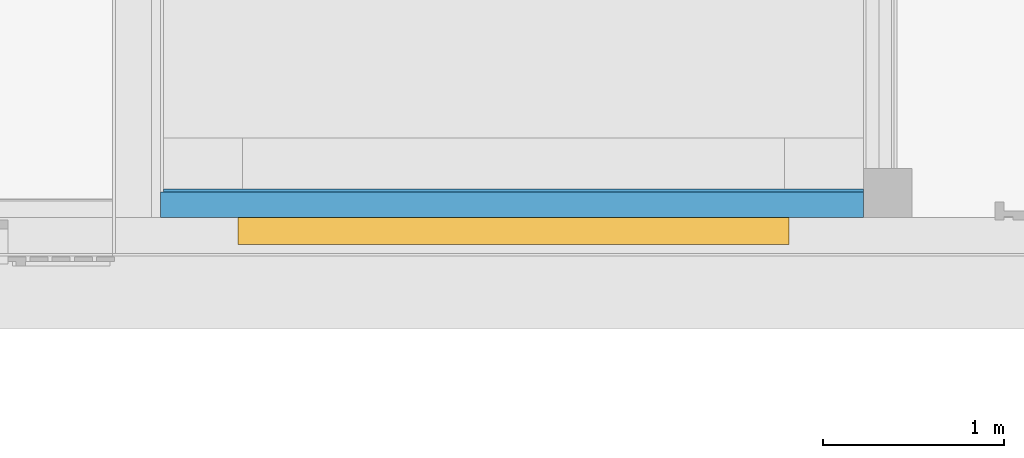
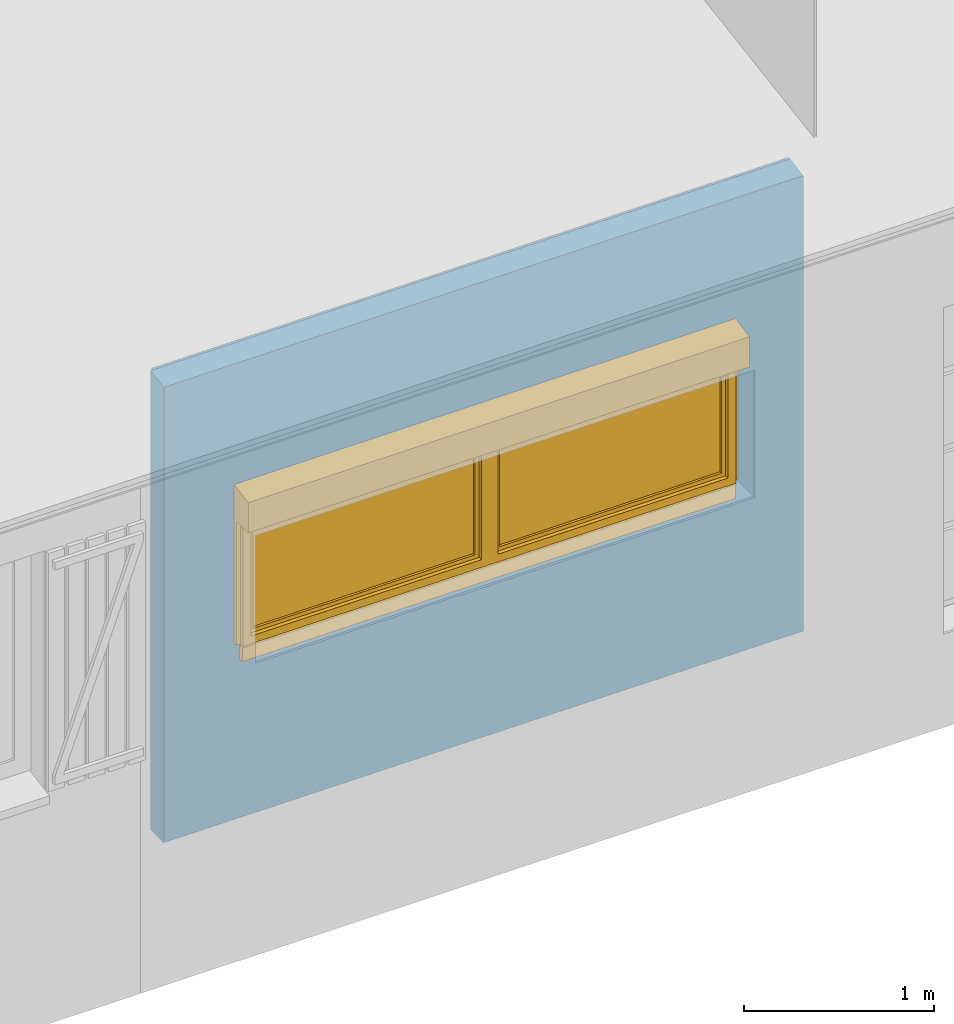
# One storey, part 9 of 24: 2 building element parts, 1 window, 1 opening, 1 element without a shape of its own.
"""IFC2X3 building model written with IfcOpenShell, lengths in metres."""

from ifc_helpers import new_model, entity, si_unit, converted_unit, derived_unit, money_unit, direction, frame, origin_with_axes, origin_2d_with_axis, place, context, subcontext, project, spatial, polyline, rectangle, outline, extrude, boolean, open_shell, faceted_brep, surface_model, material, type_object, element, fill, aggregate, save


model = new_model("IFC2X3")

# Units and contexts
model_context = context("Model", 3, precision=1e-05, world=origin_with_axes(), true_north=direction((0.0, 1.0)))
body_context = subcontext(model_context, "Body", "Model", "MODEL_VIEW")
ifc_project = project(units=[si_unit("LENGTHUNIT", "METRE"), si_unit("AREAUNIT", "SQUARE_METRE"), si_unit("VOLUMEUNIT", "CUBIC_METRE"), converted_unit("PLANEANGLEUNIT", "DEGREE", entity("IfcPlaneAngleMeasure", 0.0174532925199), si_unit("PLANEANGLEUNIT", "RADIAN"), dimensions=[0, 0, 0, 0, 0, 0, 0]), si_unit("SOLIDANGLEUNIT", "STERADIAN"), money_unit("CHF"), converted_unit("TIMEUNIT", "Year", entity("IfcTimeMeasure", 31556926.0), si_unit("TIMEUNIT", "SECOND"), dimensions=[0, 0, 1, 0, 0, 0, 0]), si_unit("MASSUNIT", "GRAM", prefix="KILO"), si_unit("THERMODYNAMICTEMPERATUREUNIT", "DEGREE_CELSIUS"), si_unit("LUMINOUSINTENSITYUNIT", "LUMEN"), si_unit("ENERGYUNIT", "JOULE", prefix="MEGA"), derived_unit("THERMALCONDUCTANCEUNIT", [(si_unit("POWERUNIT", "WATT"), 1), (si_unit("LENGTHUNIT", "METRE"), -1), (si_unit("THERMODYNAMICTEMPERATUREUNIT", "KELVIN"), -1)]), derived_unit("SPECIFICHEATCAPACITYUNIT", [(si_unit("ENERGYUNIT", "JOULE"), 1), (si_unit("MASSUNIT", "GRAM", prefix="KILO"), -1), (si_unit("THERMODYNAMICTEMPERATUREUNIT", "KELVIN"), -1)]), derived_unit("MASSDENSITYUNIT", [(si_unit("MASSUNIT", "GRAM", prefix="KILO"), 1), (si_unit("VOLUMEUNIT", "CUBIC_METRE"), -1)])], contexts=[model_context])

# Site, building, storey
site_placement = place(None, origin_with_axes())
site = spatial("IfcSite", under=ifc_project, at=site_placement, Name="Site", CompositionType="ELEMENT")
building_placement = place(site_placement, origin_with_axes())
building = spatial("IfcBuilding", under=site, at=building_placement, Name="Bâtiment", CompositionType="ELEMENT")
storey_placement = place(building_placement, origin_with_axes())
storey = spatial("IfcBuildingStorey", under=building, at=storey_placement, Name="Rez-de-chaussée", CompositionType="ELEMENT", Elevation=0.0)

# Window
window_style = type_object("IfcWindowStyle", Name="Fenêtre double 24", ConstructionType="NOTDEFINED", OperationType="DOUBLE_PANEL_VERTICAL", ParameterTakesPrecedence=False, Sizeable=False)
wall_placement = place(storey_placement, frame((23.6021417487, 7.9529346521, -0.13), z_axis=(0.0, 0.0, 1.0), x_axis=(1.0, 0.0, 0.0)))
opening_placement = place(wall_placement, frame((2.0025, 0.0, 1.41), z_axis=(0.0, 0.0, 1.0), x_axis=(1.0, 0.0, 0.0)))
window_placement = place(opening_placement, frame((-1.5, 0.0, 0.0), z_axis=(0.0, 0.0, 1.0), x_axis=(1.0, 0.0, 0.0)))
window = element("IfcWindow", 1, at=window_placement, inside=storey, type_object=window_style, Name="FENETRE-002", ObjectType="WINDOW", OverallHeight=0.82, OverallWidth=3.0, context=body_context, shape_type="SurfaceModel", body=[
    faceted_brep([(0.0, -0.015, 0.0), (0.0, -0.025, 0.0), (3.0, -0.025, 0.0), (3.0, -0.015, 0.0), (0.0, -0.015, -0.1), (0.0, -0.045, -0.1), (0.0, -0.045, -0.0135265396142), (0.0, -0.025, -0.01), (3.0, -0.025, -0.01), (3.0, -0.045, -0.0135265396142), (3.0, -0.045, -0.1), (3.0, -0.015, -0.1)], [[[0, 1, 2, 3]], [[0, 4, 5, 6, 7, 1]], [[1, 7, 8, 2]], [[3, 2, 8, 9, 10, 11]], [[4, 0, 3, 11]], [[5, 4, 11, 10]], [[6, 5, 10, 9]], [[7, 6, 9, 8]]]),
    faceted_brep([(-0.025, 0.0, 0.8), (-0.022, 0.0, 0.8), (-0.022, -0.15, 0.8), (-0.025, -0.15, 0.8), (-0.025, 0.0, 1.02), (-0.022, 0.0, 1.02), (-0.022, -0.15, 0.993550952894), (-0.025, -0.15, 0.993550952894)], [[[0, 1, 2, 3]], [[4, 5, 1, 0]], [[1, 5, 6, 2]], [[3, 2, 6, 7]], [[0, 3, 7, 4]], [[7, 6, 5, 4]]]),
    faceted_brep([(3.022, 0.0, 0.8), (3.025, 0.0, 0.8), (3.025, -0.15, 0.8), (3.022, -0.15, 0.8), (3.022, 0.0, 1.02), (3.025, 0.0, 1.02), (3.025, -0.15, 0.993550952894), (3.022, -0.15, 0.993550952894)], [[[0, 1, 2, 3]], [[4, 5, 1, 0]], [[1, 5, 6, 2]], [[3, 2, 6, 7]], [[0, 3, 7, 4]], [[7, 6, 5, 4]]]),
    faceted_brep([(-0.022, 0.0, 0.8), (3.022, 0.0, 0.8), (3.022, -0.003, 0.8), (-0.022, -0.003, 0.8), (-0.022, 0.0, 1.02), (3.022, 0.0, 1.02), (3.022, -0.15, 0.993550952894), (3.022, -0.15, 0.8), (3.022, -0.147, 0.8), (3.022, -0.147, 0.82), (3.022, -0.025, 0.82), (3.022, -0.025, 0.8), (3.022, -0.022, 0.8), (3.022, -0.022, 0.823), (3.022, -0.147, 0.823), (3.022, -0.147, 0.991033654), (3.022, -0.003, 1.01642473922), (3.022, -0.003, 0.82), (-0.022, -0.003, 0.82), (-0.022, -0.003, 1.01642473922), (-0.022, -0.147, 0.991033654), (-0.022, -0.147, 0.823), (-0.022, -0.022, 0.823), (-0.022, -0.022, 0.8), (-0.022, -0.025, 0.8), (-0.022, -0.025, 0.82), (-0.022, -0.147, 0.82), (-0.022, -0.147, 0.8), (-0.022, -0.15, 0.8), (-0.022, -0.15, 0.993550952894)], [[[0, 1, 2, 3]], [[4, 5, 1, 0]], [[1, 5, 6, 7, 8, 9, 10, 11, 12, 13, 14, 15, 16, 17, 2]], [[3, 2, 17, 18]], [[0, 3, 18, 19, 20, 21, 22, 23, 24, 25, 26, 27, 28, 29, 4]], [[29, 6, 5, 4]], [[28, 7, 6, 29]], [[27, 8, 7, 28]], [[26, 9, 8, 27]], [[25, 10, 9, 26]], [[24, 11, 10, 25]], [[23, 12, 11, 24]], [[22, 13, 12, 23]], [[21, 14, 13, 22]], [[20, 15, 14, 21]], [[19, 16, 15, 20]], [[18, 17, 16, 19]]]),
    faceted_brep([(-0.022, -0.13138024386, 0.896834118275), (-0.022, -0.13225, 0.906775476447), (-0.022, -0.13138024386, 0.916716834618), (-0.022, -0.12879740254, 0.926356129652), (-0.022, -0.124579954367, 0.935400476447), (-0.022, -0.118856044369, 0.943575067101), (-0.022, -0.111799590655, 0.950631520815), (-0.022, -0.103625, 0.956355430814), (-0.022, -0.0945806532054, 0.960572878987), (-0.022, -0.0849413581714, 0.963155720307), (-0.022, -0.075, 0.964025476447), (-0.022, -0.0650586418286, 0.963155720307), (-0.022, -0.0554193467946, 0.960572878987), (-0.022, -0.046375, 0.956355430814), (-0.022, -0.0382004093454, 0.950631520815), (-0.022, -0.0311439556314, 0.943575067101), (-0.022, -0.0254200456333, 0.935400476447), (-0.022, -0.02120259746, 0.926356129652), (-0.022, -0.0186197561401, 0.916716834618), (-0.022, -0.01775, 0.906775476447), (-0.022, -0.0186197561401, 0.896834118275), (-0.022, -0.02120259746, 0.887194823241), (-0.022, -0.0254200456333, 0.878150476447), (-0.022, -0.0311439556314, 0.869975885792), (-0.022, -0.0382004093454, 0.862919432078), (-0.022, -0.046375, 0.85719552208), (-0.022, -0.0554193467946, 0.852978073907), (-0.022, -0.0650586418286, 0.850395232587), (-0.022, -0.075, 0.849525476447), (-0.022, -0.0849413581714, 0.850395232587), (-0.022, -0.0945806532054, 0.852978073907), (-0.022, -0.103625, 0.85719552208), (-0.022, -0.111799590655, 0.862919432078), (-0.022, -0.118856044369, 0.869975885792), (-0.022, -0.124579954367, 0.878150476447), (-0.022, -0.12879740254, 0.887194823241), (3.022, -0.13138024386, 0.896834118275), (3.022, -0.13225, 0.906775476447), (3.022, -0.13138024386, 0.916716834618), (3.022, -0.12879740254, 0.926356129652), (3.022, -0.124579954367, 0.935400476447), (3.022, -0.118856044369, 0.943575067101), (3.022, -0.111799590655, 0.950631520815), (3.022, -0.103625, 0.956355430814), (3.022, -0.0945806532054, 0.960572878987), (3.022, -0.0849413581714, 0.963155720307), (3.022, -0.075, 0.964025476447), (3.022, -0.0650586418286, 0.963155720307), (3.022, -0.0554193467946, 0.960572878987), (3.022, -0.046375, 0.956355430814), (3.022, -0.0382004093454, 0.950631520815), (3.022, -0.0311439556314, 0.943575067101), (3.022, -0.0254200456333, 0.935400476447), (3.022, -0.02120259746, 0.926356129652), (3.022, -0.01861975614, 0.916716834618), (3.022, -0.01775, 0.906775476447), (3.022, -0.01861975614, 0.896834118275), (3.022, -0.02120259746, 0.887194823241), (3.022, -0.0254200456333, 0.878150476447), (3.022, -0.0311439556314, 0.869975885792), (3.022, -0.0382004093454, 0.862919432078), (3.022, -0.046375, 0.85719552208), (3.022, -0.0554193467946, 0.852978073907), (3.022, -0.0650586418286, 0.850395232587), (3.022, -0.075, 0.849525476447), (3.022, -0.0849413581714, 0.850395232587), (3.022, -0.0945806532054, 0.852978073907), (3.022, -0.103625, 0.85719552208), (3.022, -0.111799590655, 0.862919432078), (3.022, -0.118856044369, 0.869975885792), (3.022, -0.124579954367, 0.878150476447), (3.022, -0.12879740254, 0.887194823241)], [[[0, 1, 2, 3, 4, 5, 6, 7, 8, 9, 10, 11, 12, 13, 14, 15, 16, 17, 18, 19, 20, 21, 22, 23, 24, 25, 26, 27, 28, 29, 30, 31, 32, 33, 34, 35]], [[0, 36, 37, 1]], [[1, 37, 38, 2]], [[2, 38, 39, 3]], [[3, 39, 40, 4]], [[4, 40, 41, 5]], [[5, 41, 42, 6]], [[6, 42, 43, 7]], [[7, 43, 44, 8]], [[8, 44, 45, 9]], [[9, 45, 46, 10]], [[10, 46, 47, 11]], [[11, 47, 48, 12]], [[12, 48, 49, 13]], [[13, 49, 50, 14]], [[14, 50, 51, 15]], [[15, 51, 52, 16]], [[16, 52, 53, 17]], [[17, 53, 54, 18]], [[18, 54, 55, 19]], [[19, 55, 56, 20]], [[20, 56, 57, 21]], [[21, 57, 58, 22]], [[22, 58, 59, 23]], [[23, 59, 60, 24]], [[24, 60, 61, 25]], [[25, 61, 62, 26]], [[26, 62, 63, 27]], [[27, 63, 64, 28]], [[28, 64, 65, 29]], [[29, 65, 66, 30]], [[30, 66, 67, 31]], [[31, 67, 68, 32]], [[32, 68, 69, 33]], [[33, 69, 70, 34]], [[34, 70, 71, 35]], [[35, 71, 36, 0]], [[36, 71, 70, 69, 68, 67, 66, 65, 64, 63, 62, 61, 60, 59, 58, 57, 56, 55, 54, 53, 52, 51, 50, 49, 48, 47, 46, 45, 44, 43, 42, 41, 40, 39, 38, 37]]]),
    faceted_brep([(3.025, 0.0, 0.00264490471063), (3.025, 0.0, 0.8), (3.025, -0.025, 0.8), (3.025, -0.025, 0.00264490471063), (3.0, 0.0, 0.00264490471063), (3.0, 0.0, 0.8), (3.0, -0.003, 0.8), (3.022, -0.003, 0.8), (3.022, -0.022, 0.8), (3.0, -0.022, 0.8), (3.0, -0.025, 0.8), (3.0, -0.025, 0.00264490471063), (3.0, -0.022, 0.00264490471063), (3.022, -0.022, 0.00264490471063), (3.022, -0.003, 0.00264490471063), (3.0, -0.003, 0.00264490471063)], [[[0, 1, 2, 3]], [[4, 5, 1, 0]], [[1, 5, 6, 7, 8, 9, 10, 2]], [[3, 2, 10, 11]], [[0, 3, 11, 12, 13, 14, 15, 4]], [[15, 6, 5, 4]], [[14, 7, 6, 15]], [[13, 8, 7, 14]], [[12, 9, 8, 13]], [[11, 10, 9, 12]]]),
    faceted_brep([(-0.025, 0.0, 0.00264490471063), (-0.025, -0.025, 0.00264490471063), (-0.025, -0.025, 0.8), (-0.025, 0.0, 0.8), (0.0, 0.0, 0.00264490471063), (0.0, -0.003, 0.00264490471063), (-0.022, -0.003, 0.00264490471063), (-0.022, -0.022, 0.00264490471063), (0.0, -0.022, 0.00264490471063), (0.0, -0.025, 0.00264490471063), (0.0, -0.025, 0.8), (0.0, -0.022, 0.8), (-0.022, -0.022, 0.8), (-0.022, -0.003, 0.8), (0.0, -0.003, 0.8), (0.0, 0.0, 0.8)], [[[0, 1, 2, 3]], [[0, 4, 5, 6, 7, 8, 9, 1]], [[1, 9, 10, 2]], [[3, 2, 10, 11, 12, 13, 14, 15]], [[4, 0, 3, 15]], [[5, 4, 15, 14]], [[6, 5, 14, 13]], [[7, 6, 13, 12]], [[8, 7, 12, 11]], [[9, 8, 11, 10]]]),
    faceted_brep([(3.022, -0.0113224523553, 0.906775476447), (3.022, -0.0116666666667, 0.903333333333), (-0.022, -0.0116666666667, 0.903333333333), (-0.022, -0.0113224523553, 0.906775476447), (3.022, -0.0163224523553, 0.906775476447), (3.022, -0.0166666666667, 0.903333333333), (3.022, -0.0166666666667, 0.886666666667), (3.022, -0.015, 0.87), (3.022, -0.01, 0.87), (3.022, -0.0116666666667, 0.886666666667), (-0.022, -0.0116666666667, 0.886666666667), (-0.022, -0.01, 0.87), (-0.022, -0.015, 0.87), (-0.022, -0.0166666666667, 0.886666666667), (-0.022, -0.0166666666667, 0.903333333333), (-0.022, -0.0163224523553, 0.906775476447)], [[[0, 1, 2, 3]], [[4, 5, 6, 7, 8, 9, 1, 0]], [[2, 1, 9, 10]], [[3, 2, 10, 11, 12, 13, 14, 15]], [[3, 15, 4, 0]], [[14, 5, 4, 15]], [[13, 6, 5, 14]], [[12, 7, 6, 13]], [[11, 8, 7, 12]], [[10, 9, 8, 11]]]),
    faceted_brep([(-0.022, -0.01, 0.87), (3.022, -0.01, 0.87), (3.022, -0.0116666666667, 0.853333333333), (-0.022, -0.0116666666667, 0.853333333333), (-0.022, -0.015, 0.87), (3.022, -0.015, 0.87), (3.022, -0.0166666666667, 0.853333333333), (3.022, -0.0166666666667, 0.836666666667), (3.022, -0.015, 0.82), (3.022, -0.01, 0.82), (3.022, -0.0116666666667, 0.836666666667), (-0.022, -0.0116666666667, 0.836666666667), (-0.022, -0.01, 0.82), (-0.022, -0.015, 0.82), (-0.022, -0.0166666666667, 0.836666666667), (-0.022, -0.0166666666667, 0.853333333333)], [[[0, 1, 2, 3]], [[4, 5, 1, 0]], [[1, 5, 6, 7, 8, 9, 10, 2]], [[3, 2, 10, 11]], [[0, 3, 11, 12, 13, 14, 15, 4]], [[15, 6, 5, 4]], [[14, 7, 6, 15]], [[13, 8, 7, 14]], [[12, 9, 8, 13]], [[11, 10, 9, 12]]]),
    faceted_brep([(0.025, 0.0, 0.77), (0.0, 0.0, 0.77), (0.0, -0.05, 0.77), (0.05, -0.05, 0.77), (0.05, -0.025, 0.77), (0.025, -0.025, 0.77), (0.025, 0.0, 0.05), (0.0, 0.0, 0.05), (0.0, -0.05, 0.05), (0.05, -0.05, 0.05), (0.05, -0.025, 0.05), (0.025, -0.025, 0.05)], [[[0, 1, 2, 3, 4, 5]], [[6, 7, 1, 0]], [[1, 7, 8, 2]], [[2, 8, 9, 3]], [[4, 3, 9, 10]], [[10, 11, 5, 4]], [[5, 11, 6, 0]], [[11, 10, 9, 8, 7, 6]]]),
    faceted_brep([(2.95, -0.025, 0.77), (2.95, -0.05, 0.77), (3.0, -0.05, 0.77), (3.0, 0.0, 0.77), (2.975, 0.0, 0.77), (2.975, -0.025, 0.77), (2.95, -0.025, 0.05), (2.95, -0.05, 0.05), (3.0, -0.05, 0.05), (3.0, 0.0, 0.05), (2.975, 0.0, 0.05), (2.975, -0.025, 0.05)], [[[0, 1, 2, 3, 4, 5]], [[6, 7, 1, 0]], [[8, 2, 1, 7]], [[9, 3, 2, 8]], [[4, 3, 9, 10]], [[10, 11, 5, 4]], [[5, 11, 6, 0]], [[11, 10, 9, 8, 7, 6]]]),
    faceted_brep([(1.45, -0.025, 0.77), (1.45, -0.05, 0.77), (1.55, -0.05, 0.77), (1.55, -0.025, 0.77), (1.525, -0.025, 0.77), (1.525, 0.0, 0.77), (1.475, 0.0, 0.77), (1.475, -0.025, 0.77), (1.45, -0.025, 0.05), (1.45, -0.05, 0.05), (1.55, -0.05, 0.05), (1.55, -0.025, 0.05), (1.525, -0.025, 0.05), (1.525, 0.0, 0.05), (1.475, 0.0, 0.05), (1.475, -0.025, 0.05)], [[[0, 1, 2, 3, 4, 5, 6, 7]], [[8, 9, 1, 0]], [[10, 2, 1, 9]], [[3, 2, 10, 11]], [[11, 12, 4, 3]], [[4, 12, 13, 5]], [[6, 5, 13, 14]], [[14, 15, 7, 6]], [[7, 15, 8, 0]], [[15, 14, 13, 12, 11, 10, 9, 8]]]),
    faceted_brep([(1.45, -0.025, 0.05), (1.45, -0.05, 0.05), (1.55, -0.05, 0.05), (1.55, -0.025, 0.05), (1.525, -0.025, 0.05), (1.525, 0.0, 0.05), (1.475, 0.0, 0.05), (1.475, -0.025, 0.05), (0.05, -0.025, 0.05), (0.05, -0.05, 0.05), (0.0, -0.05, 0.05), (0.0, -0.05, 0.0), (3.0, -0.05, 0.0), (3.0, -0.05, 0.05), (2.95, -0.05, 0.05), (2.95, -0.025, 0.05), (2.975, -0.025, 0.05), (2.975, -0.025, 0.025), (1.525, -0.025, 0.025), (1.525, 0.0, 0.025), (0.025, 0.0, 0.025), (1.475, 0.0, 0.025), (2.975, 0.0, 0.025), (2.975, 0.0, 0.05), (3.0, 0.0, 0.05), (3.0, 0.0, 0.0), (0.0, 0.0, 0.0), (0.0, 0.0, 0.05), (0.025, 0.0, 0.05), (1.475, -0.025, 0.025), (0.025, -0.025, 0.025), (0.025, -0.025, 0.05)], [[[0, 1, 2, 3, 4, 5, 6, 7]], [[8, 9, 1, 0]], [[10, 11, 12, 13, 14, 2, 1, 9]], [[3, 2, 14, 15]], [[16, 17, 18, 4, 3, 15]], [[4, 18, 19, 5]], [[20, 21, 6, 5, 19, 22, 23, 24, 25, 26, 27, 28]], [[21, 29, 7, 6]], [[7, 29, 30, 31, 8, 0]], [[31, 28, 27, 10, 9, 8]], [[27, 26, 11, 10]], [[26, 25, 12, 11]], [[25, 24, 13, 12]], [[15, 14, 13, 24, 23, 16]], [[22, 17, 16, 23]], [[19, 18, 17, 22]], [[20, 30, 29, 21]], [[31, 30, 20, 28]]]),
    faceted_brep([(0.025, 0.0, 0.77), (0.0, 0.0, 0.77), (0.0, 0.0, 0.82), (3.0, 0.0, 0.82), (3.0, 0.0, 0.77), (2.975, 0.0, 0.77), (2.975, 0.0, 0.795), (1.525, 0.0, 0.795), (1.525, 0.0, 0.77), (1.475, 0.0, 0.77), (1.475, 0.0, 0.795), (0.025, 0.0, 0.795), (0.025, -0.025, 0.77), (0.05, -0.025, 0.77), (0.05, -0.05, 0.77), (0.0, -0.05, 0.77), (0.0, -0.05, 0.82), (3.0, -0.05, 0.82), (3.0, -0.05, 0.77), (2.975, -0.025, 0.77), (2.95, -0.05, 0.77), (2.95, -0.025, 0.77), (2.975, -0.025, 0.795), (1.525, -0.025, 0.795), (1.525, -0.025, 0.77), (1.475, -0.025, 0.77), (1.55, -0.025, 0.77), (1.55, -0.05, 0.77), (1.45, -0.05, 0.77), (1.45, -0.025, 0.77), (1.475, -0.025, 0.795), (0.025, -0.025, 0.795)], [[[0, 1, 2, 3, 4, 5, 6, 7, 8, 9, 10, 11]], [[12, 13, 14, 15, 1, 0]], [[2, 1, 15, 16]], [[3, 2, 16, 17]], [[4, 3, 17, 18]], [[19, 5, 4, 18, 20, 21]], [[5, 19, 22, 6]], [[6, 22, 23, 7]], [[7, 23, 24, 8]], [[25, 9, 8, 24, 26, 27, 28, 29]], [[9, 25, 30, 10]], [[10, 30, 31, 11]], [[11, 31, 12, 0]], [[29, 13, 12, 31, 30, 25]], [[29, 28, 14, 13]], [[27, 20, 18, 17, 16, 15, 14, 28]], [[21, 20, 27, 26]], [[21, 26, 24, 23, 22, 19]]]),
    faceted_brep([(0.075, -0.025, 0.745), (0.075, 0.025, 0.745), (0.025, 0.025, 0.745), (0.025, -0.025, 0.745), (0.075, -0.025, 0.075), (0.075, 0.025, 0.075), (0.025, 0.025, 0.075), (0.025, -0.025, 0.075)], [[[0, 1, 2, 3]], [[4, 5, 1, 0]], [[1, 5, 6, 2]], [[3, 2, 6, 7]], [[0, 3, 7, 4]], [[7, 6, 5, 4]]]),
    faceted_brep([(1.425, -0.025, 0.075), (1.425, 0.025, 0.075), (1.475, 0.025, 0.075), (1.475, -0.025, 0.075), (1.425, -0.025, 0.745), (1.425, 0.025, 0.745), (1.475, 0.025, 0.745), (1.475, -0.025, 0.745)], [[[0, 1, 2, 3]], [[4, 5, 1, 0]], [[1, 5, 6, 2]], [[3, 2, 6, 7]], [[0, 3, 7, 4]], [[7, 6, 5, 4]]]),
    faceted_brep([(1.475, -0.025, 0.025), (1.475, 0.025, 0.025), (1.475, 0.025, 0.075), (1.475, -0.025, 0.075), (0.025, -0.025, 0.025), (0.025, 0.025, 0.025), (0.025, 0.025, 0.075), (0.075, 0.025, 0.075), (1.425, 0.025, 0.075), (1.425, -0.025, 0.075), (0.075, -0.025, 0.075), (0.025, -0.025, 0.075)], [[[0, 1, 2, 3]], [[4, 5, 1, 0]], [[1, 5, 6, 7, 8, 2]], [[3, 2, 8, 9]], [[0, 3, 9, 10, 11, 4]], [[11, 6, 5, 4]], [[10, 7, 6, 11]], [[9, 8, 7, 10]]]),
    faceted_brep([(0.025, -0.025, 0.795), (0.025, 0.025, 0.795), (0.025, 0.025, 0.745), (0.025, -0.025, 0.745), (1.475, -0.025, 0.795), (1.475, 0.025, 0.795), (1.475, 0.025, 0.745), (1.425, 0.025, 0.745), (0.075, 0.025, 0.745), (0.075, -0.025, 0.745), (1.425, -0.025, 0.745), (1.475, -0.025, 0.745)], [[[0, 1, 2, 3]], [[4, 5, 1, 0]], [[1, 5, 6, 7, 8, 2]], [[3, 2, 8, 9]], [[0, 3, 9, 10, 11, 4]], [[11, 6, 5, 4]], [[10, 7, 6, 11]], [[9, 8, 7, 10]]]),
    surface_model("IfcShellBasedSurfaceModel", [(0.075, -0.01, 0.075), (1.425, -0.01, 0.075), (1.425, -0.01, 0.745), (0.075, -0.01, 0.745)], [open_shell([[[0, 1, 2, 3]]])]),
    surface_model("IfcShellBasedSurfaceModel", [(0.075, 0.01, 0.075), (0.075, 0.01, 0.745), (1.425, 0.01, 0.745), (1.425, 0.01, 0.075)], [open_shell([[[0, 1, 2, 3]]])]),
    faceted_brep([(1.575, -0.025, 0.745), (1.575, 0.025, 0.745), (1.525, 0.025, 0.745), (1.525, -0.025, 0.745), (1.575, -0.025, 0.075), (1.575, 0.025, 0.075), (1.525, 0.025, 0.075), (1.525, -0.025, 0.075)], [[[0, 1, 2, 3]], [[4, 5, 1, 0]], [[1, 5, 6, 2]], [[3, 2, 6, 7]], [[0, 3, 7, 4]], [[7, 6, 5, 4]]]),
    faceted_brep([(2.925, -0.025, 0.075), (2.925, 0.025, 0.075), (2.975, 0.025, 0.075), (2.975, -0.025, 0.075), (2.925, -0.025, 0.745), (2.925, 0.025, 0.745), (2.975, 0.025, 0.745), (2.975, -0.025, 0.745)], [[[0, 1, 2, 3]], [[4, 5, 1, 0]], [[1, 5, 6, 2]], [[3, 2, 6, 7]], [[0, 3, 7, 4]], [[7, 6, 5, 4]]]),
    faceted_brep([(2.975, -0.025, 0.025), (2.975, 0.025, 0.025), (2.975, 0.025, 0.075), (2.975, -0.025, 0.075), (1.525, -0.025, 0.025), (1.525, 0.025, 0.025), (1.525, 0.025, 0.075), (1.575, 0.025, 0.075), (2.925, 0.025, 0.075), (2.925, -0.025, 0.075), (1.575, -0.025, 0.075), (1.525, -0.025, 0.075)], [[[0, 1, 2, 3]], [[4, 5, 1, 0]], [[1, 5, 6, 7, 8, 2]], [[3, 2, 8, 9]], [[0, 3, 9, 10, 11, 4]], [[11, 6, 5, 4]], [[10, 7, 6, 11]], [[9, 8, 7, 10]]]),
    faceted_brep([(1.525, -0.025, 0.795), (1.525, 0.025, 0.795), (1.525, 0.025, 0.745), (1.525, -0.025, 0.745), (2.975, -0.025, 0.795), (2.975, 0.025, 0.795), (2.975, 0.025, 0.745), (2.925, 0.025, 0.745), (1.575, 0.025, 0.745), (1.575, -0.025, 0.745), (2.925, -0.025, 0.745), (2.975, -0.025, 0.745)], [[[0, 1, 2, 3]], [[4, 5, 1, 0]], [[1, 5, 6, 7, 8, 2]], [[3, 2, 8, 9]], [[0, 3, 9, 10, 11, 4]], [[11, 6, 5, 4]], [[10, 7, 6, 11]], [[9, 8, 7, 10]]]),
    surface_model("IfcShellBasedSurfaceModel", [(1.575, -0.01, 0.075), (2.925, -0.01, 0.075), (2.925, -0.01, 0.745), (1.575, -0.01, 0.745)], [open_shell([[[0, 1, 2, 3]]])]),
    surface_model("IfcShellBasedSurfaceModel", [(1.575, 0.01, 0.075), (1.575, 0.01, 0.745), (2.925, 0.01, 0.745), (2.925, 0.01, 0.075)], [open_shell([[[0, 1, 2, 3]]])]),
])

# Wall, opening
wall_type = type_object("IfcWallType", Name="3.3b - Cloison doublage isolation + plâtre 1 face 155", PredefinedType="ELEMENTEDWALL")
wall = element("IfcWall", 2, at=wall_placement, inside=storey, type_object=wall_type, Name="MUR_EXT-005", ObjectType="ELEMENTEDWALL")
opening = element("IfcOpeningElement", 3, at=opening_placement, cuts=wall, Name="FENETRE-002", context=body_context, shape_type="SweptSolid", body=[
    extrude(rectangle(XDim=3.0, YDim=0.82, at=origin_2d_with_axis()), frame((0.0, 0.155, 0.41), z_axis=(0.0, -1.0, 0.0), x_axis=(1.0, 0.0, 0.0)), (0.0, 0.0, 1.0), 0.515),
    extrude(rectangle(XDim=3.0, YDim=0.1, at=origin_2d_with_axis()), frame((0.0, -0.015, -0.05), z_axis=(0.0, 1.0, 0.0), x_axis=(1.0, 0.0, 0.0)), (0.0, 0.0, -1.0), 0.19),
])

fill(opening, window)

# Building element part
ifc_material_1 = material(Name="Finition int - Plaque de plâtre")
building_element_part_1_placement = place(wall_placement, origin_with_axes())
building_element_part_1 = element("IfcBuildingElementPart", 4, at=building_element_part_1_placement, material=ifc_material_1, Name="Finition int - Plaque de plâtre", context=body_context, shape_type="CSG", body=[
    boolean("DIFFERENCE", boolean("DIFFERENCE", extrude(outline(polyline([(-0.215, 0.14), (3.94, 0.14), (3.94, 0.155), (-0.215, 0.155), (-0.215, 0.14)])), origin_with_axes(), (0.0, 0.0, 1.0), 6.01874511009), faceted_brep([(3.94, 0.14, 3.2267999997), (3.94, 0.155, 3.2291999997), (3.94, 0.155, 6.01874511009), (3.94, 0.14, 6.01874511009), (0.065, 0.155000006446, 3.22920000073), (0.065, 0.140000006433, 3.22680000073), (0.065, 0.155000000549, 0.275), (3.94, 0.155, 0.275), (3.94, 0.155, 0.0), (-0.215, 0.155, 0.0), (-0.215, 0.155, 6.01874511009), (-0.215, 0.14, 6.01874511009), (-0.215, 0.14, 0.0), (3.94, 0.14, 0.0), (3.94, 0.14, 0.275), (0.065, 0.140000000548, 0.275)], [[[0, 1, 2, 3]], [[4, 1, 0, 5]], [[6, 7, 8, 9, 10, 2, 1, 4]], [[10, 11, 3, 2]], [[5, 0, 3, 11, 12, 13, 14, 15]], [[6, 4, 5, 15]], [[14, 7, 6, 15]], [[7, 14, 13, 8]], [[13, 12, 9, 8]], [[10, 9, 12, 11]]])), faceted_brep([(3.94, 0.0, 3.2043999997), (3.94, 0.14, 3.2267999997), (3.94, 0.14, 6.01874511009), (3.94, 0.0, 6.01874511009), (0.05, 0.0, 3.2043999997), (0.05, 0.140000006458, 3.22680000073), (0.05, 0.14000000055, 0.275), (3.94, 0.14, 0.275), (3.94, 0.14, 0.0), (-0.215, 0.14, 0.0), (-0.215, 0.14, 6.01874511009), (-0.215, 0.0, 6.01874511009), (-0.215, 0.0, 0.0), (3.94, 0.0, 0.0), (3.94, 0.0, 0.275), (0.05, 0.0, 0.275)], [[[0, 1, 2, 3]], [[1, 0, 4, 5]], [[6, 7, 8, 9, 10, 2, 1, 5]], [[10, 11, 3, 2]], [[4, 0, 3, 11, 12, 13, 14, 15]], [[6, 5, 4, 15]], [[14, 7, 6, 15]], [[7, 14, 13, 8]], [[13, 12, 9, 8]], [[10, 9, 12, 11]]])),
])

ifc_material_2 = material(Name="Cloison - Isolation")
building_element_part_2_placement = place(wall_placement, origin_with_axes())
building_element_part_2 = element("IfcBuildingElementPart", 5, at=building_element_part_2_placement, material=ifc_material_2, Name="Cloison - Isolation", context=body_context, shape_type="CSG", body=[
    boolean("DIFFERENCE", boolean("DIFFERENCE", extrude(outline(polyline([(-0.215, 0.0), (3.94, 0.0), (3.94, 0.14), (-0.215, 0.14), (-0.215, 0.0)])), origin_with_axes(), (0.0, 0.0, 1.0), 6.01874511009), faceted_brep([(3.94, 0.14, 3.2267999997), (3.94, 0.155, 3.2291999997), (3.94, 0.155, 6.01874511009), (3.94, 0.14, 6.01874511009), (0.065, 0.155000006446, 3.22920000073), (0.065, 0.140000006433, 3.22680000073), (0.065, 0.155000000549, 0.275), (3.94, 0.155, 0.275), (3.94, 0.155, 0.0), (-0.215, 0.155, 0.0), (-0.215, 0.155, 6.01874511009), (-0.215, 0.14, 6.01874511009), (-0.215, 0.14, 0.0), (3.94, 0.14, 0.0), (3.94, 0.14, 0.275), (0.065, 0.140000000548, 0.275)], [[[0, 1, 2, 3]], [[4, 1, 0, 5]], [[6, 7, 8, 9, 10, 2, 1, 4]], [[10, 11, 3, 2]], [[5, 0, 3, 11, 12, 13, 14, 15]], [[6, 4, 5, 15]], [[14, 7, 6, 15]], [[7, 14, 13, 8]], [[13, 12, 9, 8]], [[10, 9, 12, 11]]])), faceted_brep([(3.94, 0.0, 3.2043999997), (3.94, 0.14, 3.2267999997), (3.94, 0.14, 6.01874511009), (3.94, 0.0, 6.01874511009), (0.05, 0.0, 3.2043999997), (0.05, 0.140000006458, 3.22680000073), (0.05, 0.14000000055, 0.275), (3.94, 0.14, 0.275), (3.94, 0.14, 0.0), (-0.215, 0.14, 0.0), (-0.215, 0.14, 6.01874511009), (-0.215, 0.0, 6.01874511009), (-0.215, 0.0, 0.0), (3.94, 0.0, 0.0), (3.94, 0.0, 0.275), (0.05, 0.0, 0.275)], [[[0, 1, 2, 3]], [[1, 0, 4, 5]], [[6, 7, 8, 9, 10, 2, 1, 5]], [[10, 11, 3, 2]], [[4, 0, 3, 11, 12, 13, 14, 15]], [[6, 5, 4, 15]], [[14, 7, 6, 15]], [[7, 14, 13, 8]], [[13, 12, 9, 8]], [[10, 9, 12, 11]]])),
])

aggregate(wall, [building_element_part_1, building_element_part_2])

save(model, "model.ifc")
